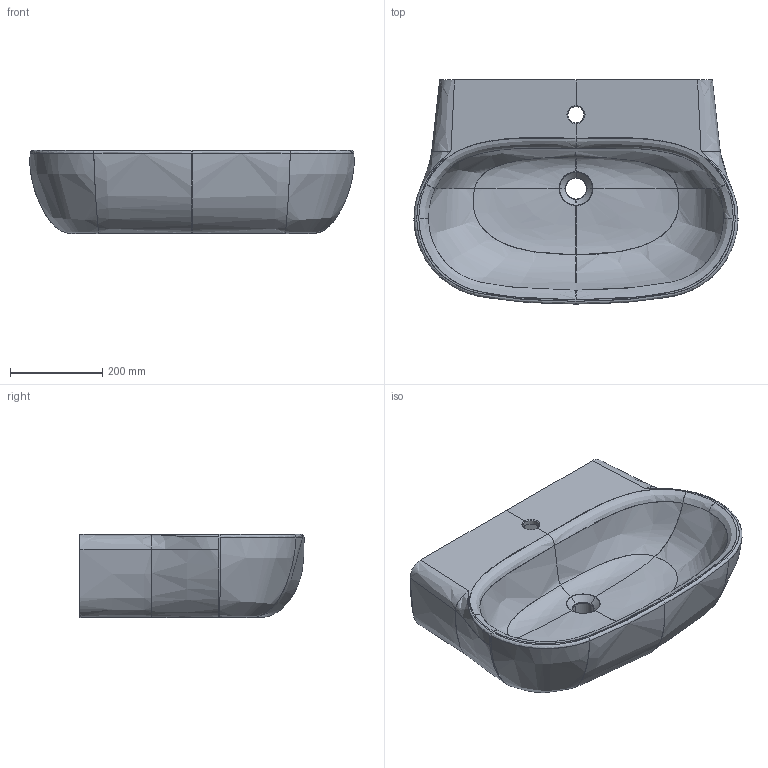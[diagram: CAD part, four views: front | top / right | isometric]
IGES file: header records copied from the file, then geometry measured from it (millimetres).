
Start section: START RECORD GO HERE.
Global section: file name: 7120_3D.igs; native system: DASSAULT SYSTEMES CATIA V5 R19 - www.3ds.com; preprocessor: CATIA Version 5 Release 19 SP 5 ; author: Luca; organization: DESKTOP-V7SON24; date: 20201027.150741; units: millimetre
Bounding box: 701.69 x 484.99 x 180.01 mm (x, y, z)
Surface area: 1122940.7 mm2 (no closed solid volume)
Topology: 0 solids, 0 shells, 288 faces, 1366 edges, 1346 vertices
Faces by surface type: bspline 208, revolution 56, plane 22, extrusion 2
